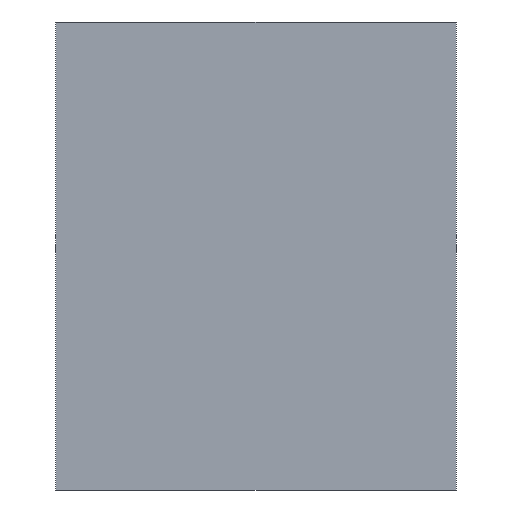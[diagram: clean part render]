
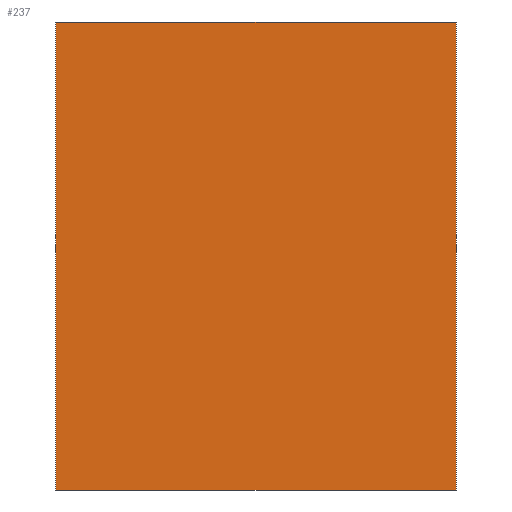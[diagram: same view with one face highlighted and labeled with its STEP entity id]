
A CAD part, front view. The second image highlights one B-rep face of the part: STEP entity #237.
In plain terms, the highlighted planar face has unit normal (0, -1, 0).
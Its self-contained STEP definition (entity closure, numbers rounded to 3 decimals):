
#21 = EDGE_CURVE('',#22,#24,#26,.T.);
#22 = VERTEX_POINT('',#23);
#23 = CARTESIAN_POINT('',(71.5,-135.,9.));
#24 = VERTEX_POINT('',#25);
#25 = CARTESIAN_POINT('',(71.5,-135.,85.));
#26 = SURFACE_CURVE('',#27,(#31,#43),.PCURVE_S1.);
#27 = LINE('',#28,#29);
#28 = CARTESIAN_POINT('',(71.5,-135.,9.));
#29 = VECTOR('',#30,1.);
#30 = DIRECTION('',(0.,0.,1.));
#31 = PCURVE('',#32,#37);
#32 = PLANE('',#33);
#33 = AXIS2_PLACEMENT_3D('',#34,#35,#36);
#34 = CARTESIAN_POINT('',(71.5,-135.,9.));
#35 = DIRECTION('',(1.,0.,0.));
#36 = DIRECTION('',(0.,0.,1.));
#37 = DEFINITIONAL_REPRESENTATION('',(#38),#42);
#38 = LINE('',#39,#40);
#39 = CARTESIAN_POINT('',(0.,0.));
#40 = VECTOR('',#41,1.);
#41 = DIRECTION('',(1.,0.));
#42 = ( GEOMETRIC_REPRESENTATION_CONTEXT(2) 
PARAMETRIC_REPRESENTATION_CONTEXT() REPRESENTATION_CONTEXT('2D SPACE',''
  ) );
#43 = PCURVE('',#44,#49);
#44 = PLANE('',#45);
#45 = AXIS2_PLACEMENT_3D('',#46,#47,#48);
#46 = CARTESIAN_POINT('',(71.5,-135.,9.));
#47 = DIRECTION('',(0.,1.,0.));
#48 = DIRECTION('',(0.,0.,1.));
#49 = DEFINITIONAL_REPRESENTATION('',(#50),#54);
#50 = LINE('',#51,#52);
#51 = CARTESIAN_POINT('',(0.,0.));
#52 = VECTOR('',#53,1.);
#53 = DIRECTION('',(1.,0.));
#54 = ( GEOMETRIC_REPRESENTATION_CONTEXT(2) 
PARAMETRIC_REPRESENTATION_CONTEXT() REPRESENTATION_CONTEXT('2D SPACE',''
  ) );
#72 = PLANE('',#73);
#73 = AXIS2_PLACEMENT_3D('',#74,#75,#76);
#74 = CARTESIAN_POINT('',(71.5,-135.,9.));
#75 = DIRECTION('',(0.,0.,1.));
#76 = DIRECTION('',(1.,0.,0.));
#126 = PLANE('',#127);
#127 = AXIS2_PLACEMENT_3D('',#128,#129,#130);
#128 = CARTESIAN_POINT('',(71.5,-135.,85.));
#129 = DIRECTION('',(0.,0.,1.));
#130 = DIRECTION('',(1.,0.,0.));
#141 = EDGE_CURVE('',#142,#144,#146,.T.);
#142 = VERTEX_POINT('',#143);
#143 = CARTESIAN_POINT('',(136.5,-135.,9.));
#144 = VERTEX_POINT('',#145);
#145 = CARTESIAN_POINT('',(136.5,-135.,85.));
#146 = SURFACE_CURVE('',#147,(#151,#163),.PCURVE_S1.);
#147 = LINE('',#148,#149);
#148 = CARTESIAN_POINT('',(136.5,-135.,9.));
#149 = VECTOR('',#150,1.);
#150 = DIRECTION('',(0.,0.,1.));
#151 = PCURVE('',#152,#157);
#152 = PLANE('',#153);
#153 = AXIS2_PLACEMENT_3D('',#154,#155,#156);
#154 = CARTESIAN_POINT('',(136.5,-135.,9.));
#155 = DIRECTION('',(1.,0.,0.));
#156 = DIRECTION('',(0.,0.,1.));
#157 = DEFINITIONAL_REPRESENTATION('',(#158),#162);
#158 = LINE('',#159,#160);
#159 = CARTESIAN_POINT('',(0.,0.));
#160 = VECTOR('',#161,1.);
#161 = DIRECTION('',(1.,0.));
#162 = ( GEOMETRIC_REPRESENTATION_CONTEXT(2) 
PARAMETRIC_REPRESENTATION_CONTEXT() REPRESENTATION_CONTEXT('2D SPACE',''
  ) );
#163 = PCURVE('',#44,#164);
#164 = DEFINITIONAL_REPRESENTATION('',(#165),#169);
#165 = LINE('',#166,#167);
#166 = CARTESIAN_POINT('',(0.,65.));
#167 = VECTOR('',#168,1.);
#168 = DIRECTION('',(1.,0.));
#169 = ( GEOMETRIC_REPRESENTATION_CONTEXT(2) 
PARAMETRIC_REPRESENTATION_CONTEXT() REPRESENTATION_CONTEXT('2D SPACE',''
  ) );
#237 = ADVANCED_FACE('',(#238),#44,.F.);
#238 = FACE_BOUND('',#239,.F.);
#239 = EDGE_LOOP('',(#240,#261,#262,#283));
#240 = ORIENTED_EDGE('',*,*,#241,.F.);
#241 = EDGE_CURVE('',#22,#142,#242,.T.);
#242 = SURFACE_CURVE('',#243,(#247,#254),.PCURVE_S1.);
#243 = LINE('',#244,#245);
#244 = CARTESIAN_POINT('',(71.5,-135.,9.));
#245 = VECTOR('',#246,1.);
#246 = DIRECTION('',(1.,0.,0.));
#247 = PCURVE('',#44,#248);
#248 = DEFINITIONAL_REPRESENTATION('',(#249),#253);
#249 = LINE('',#250,#251);
#250 = CARTESIAN_POINT('',(0.,0.));
#251 = VECTOR('',#252,1.);
#252 = DIRECTION('',(0.,1.));
#253 = ( GEOMETRIC_REPRESENTATION_CONTEXT(2) 
PARAMETRIC_REPRESENTATION_CONTEXT() REPRESENTATION_CONTEXT('2D SPACE',''
  ) );
#254 = PCURVE('',#72,#255);
#255 = DEFINITIONAL_REPRESENTATION('',(#256),#260);
#256 = LINE('',#257,#258);
#257 = CARTESIAN_POINT('',(0.,0.));
#258 = VECTOR('',#259,1.);
#259 = DIRECTION('',(1.,0.));
#260 = ( GEOMETRIC_REPRESENTATION_CONTEXT(2) 
PARAMETRIC_REPRESENTATION_CONTEXT() REPRESENTATION_CONTEXT('2D SPACE',''
  ) );
#261 = ORIENTED_EDGE('',*,*,#21,.T.);
#262 = ORIENTED_EDGE('',*,*,#263,.T.);
#263 = EDGE_CURVE('',#24,#144,#264,.T.);
#264 = SURFACE_CURVE('',#265,(#269,#276),.PCURVE_S1.);
#265 = LINE('',#266,#267);
#266 = CARTESIAN_POINT('',(71.5,-135.,85.));
#267 = VECTOR('',#268,1.);
#268 = DIRECTION('',(1.,0.,0.));
#269 = PCURVE('',#44,#270);
#270 = DEFINITIONAL_REPRESENTATION('',(#271),#275);
#271 = LINE('',#272,#273);
#272 = CARTESIAN_POINT('',(76.,0.));
#273 = VECTOR('',#274,1.);
#274 = DIRECTION('',(0.,1.));
#275 = ( GEOMETRIC_REPRESENTATION_CONTEXT(2) 
PARAMETRIC_REPRESENTATION_CONTEXT() REPRESENTATION_CONTEXT('2D SPACE',''
  ) );
#276 = PCURVE('',#126,#277);
#277 = DEFINITIONAL_REPRESENTATION('',(#278),#282);
#278 = LINE('',#279,#280);
#279 = CARTESIAN_POINT('',(0.,0.));
#280 = VECTOR('',#281,1.);
#281 = DIRECTION('',(1.,0.));
#282 = ( GEOMETRIC_REPRESENTATION_CONTEXT(2) 
PARAMETRIC_REPRESENTATION_CONTEXT() REPRESENTATION_CONTEXT('2D SPACE',''
  ) );
#283 = ORIENTED_EDGE('',*,*,#141,.F.);
